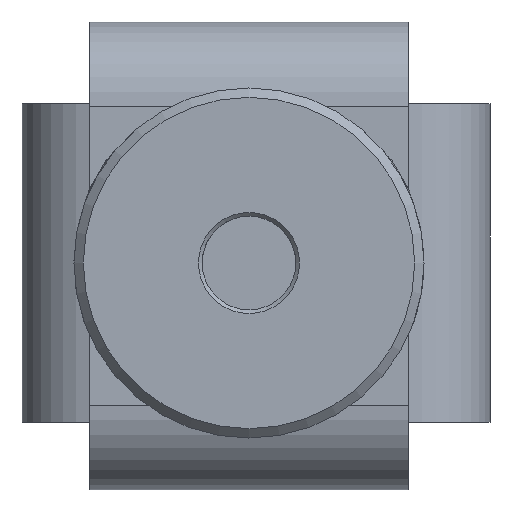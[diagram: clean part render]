
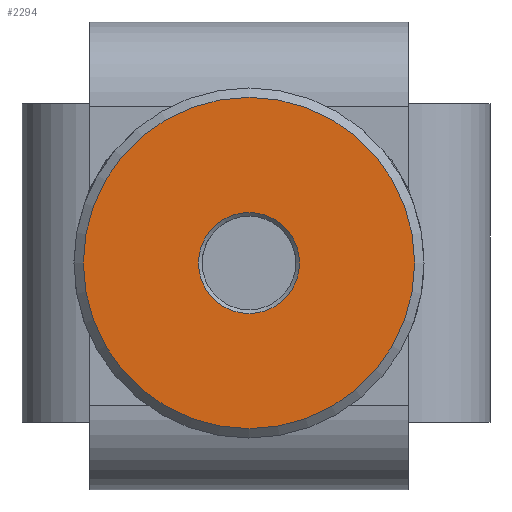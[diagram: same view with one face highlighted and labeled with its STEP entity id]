
A CAD part, front view. The second image highlights one B-rep face of the part: STEP entity #2294.
In plain terms, the highlighted planar face has unit normal (0, -1, 0).
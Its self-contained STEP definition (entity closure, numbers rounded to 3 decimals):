
#389=PLANE('',#2486);
#467=FACE_BOUND('',#734,.T.);
#561=FACE_OUTER_BOUND('',#733,.T.);
#733=EDGE_LOOP('',(#1620));
#734=EDGE_LOOP('',(#1621));
#920=CIRCLE('',#2483,2.7);
#922=CIRCLE('',#2487,8.85);
#1055=VERTEX_POINT('',#3614);
#1057=VERTEX_POINT('',#3620);
#1271=EDGE_CURVE('',#1055,#1055,#920,.T.);
#1273=EDGE_CURVE('',#1057,#1057,#922,.T.);
#1620=ORIENTED_EDGE('',*,*,#1273,.F.);
#1621=ORIENTED_EDGE('',*,*,#1271,.F.);
#2294=ADVANCED_FACE('',(#561,#467),#389,.F.);
#2483=AXIS2_PLACEMENT_3D('',#3615,#2871,#2872);
#2486=AXIS2_PLACEMENT_3D('',#3619,#2877,#2878);
#2487=AXIS2_PLACEMENT_3D('',#3621,#2879,#2880);
#2871=DIRECTION('center_axis',(0.,-1.,0.));
#2872=DIRECTION('ref_axis',(-0.5,0.,-0.866));
#2877=DIRECTION('center_axis',(0.,1.,0.));
#2878=DIRECTION('ref_axis',(-0.5,0.,-0.866));
#2879=DIRECTION('center_axis',(0.,1.,0.));
#2880=DIRECTION('ref_axis',(-0.5,0.,-0.866));
#3614=CARTESIAN_POINT('',(-45.551,0.046,10.838));
#3615=CARTESIAN_POINT('Origin',(-46.901,0.046,8.5));
#3619=CARTESIAN_POINT('Origin',(-46.901,0.046,8.5));
#3620=CARTESIAN_POINT('',(-42.476,0.046,16.164));
#3621=CARTESIAN_POINT('Origin',(-46.901,0.046,8.5));
